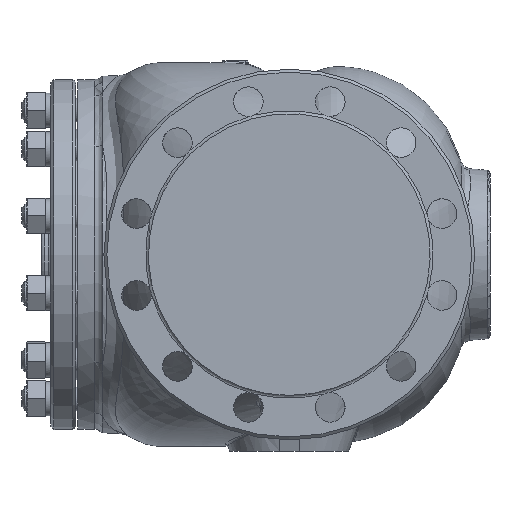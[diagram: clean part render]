
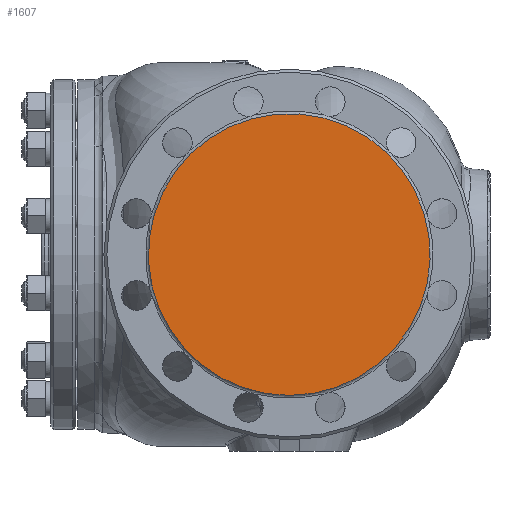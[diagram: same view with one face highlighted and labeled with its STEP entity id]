
A CAD part, left-side view. The second image highlights one B-rep face of the part: STEP entity #1607.
In plain terms, the highlighted planar face has unit normal (-1, 0, 0).
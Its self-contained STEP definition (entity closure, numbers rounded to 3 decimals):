
#816=FACE_OUTER_BOUND('',#2635,.T.);
#1607=ADVANCED_FACE('',(#816),#2042,.T.);
#2042=PLANE('',#7614);
#2635=EDGE_LOOP('',(#3514));
#3514=ORIENTED_EDGE('',*,*,#6180,.F.);
#5442=VERTEX_POINT('',#30457);
#6180=EDGE_CURVE('',#5442,#5442,#7141,.T.);
#7141=CIRCLE('',#7613,142.5);
#7613=AXIS2_PLACEMENT_3D('',#30456,#8670,#8671);
#7614=AXIS2_PLACEMENT_3D('',#30458,#8672,#8673);
#8670=DIRECTION('',(1.,0.,0.));
#8671=DIRECTION('',(0.,0.,-1.));
#8672=DIRECTION('',(-1.,0.,0.));
#8673=DIRECTION('',(0.,0.,1.));
#30456=CARTESIAN_POINT('',(-300.,0.,0.));
#30457=CARTESIAN_POINT('',(-300.,0.,-142.5));
#30458=CARTESIAN_POINT('',(-300.,142.5,0.));
